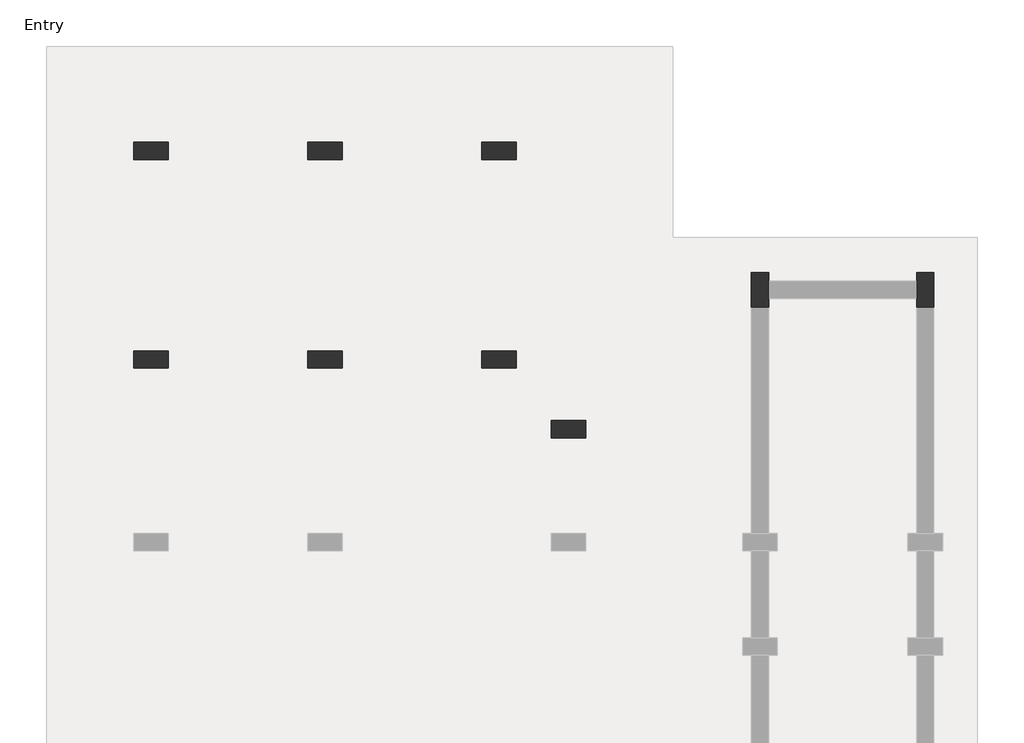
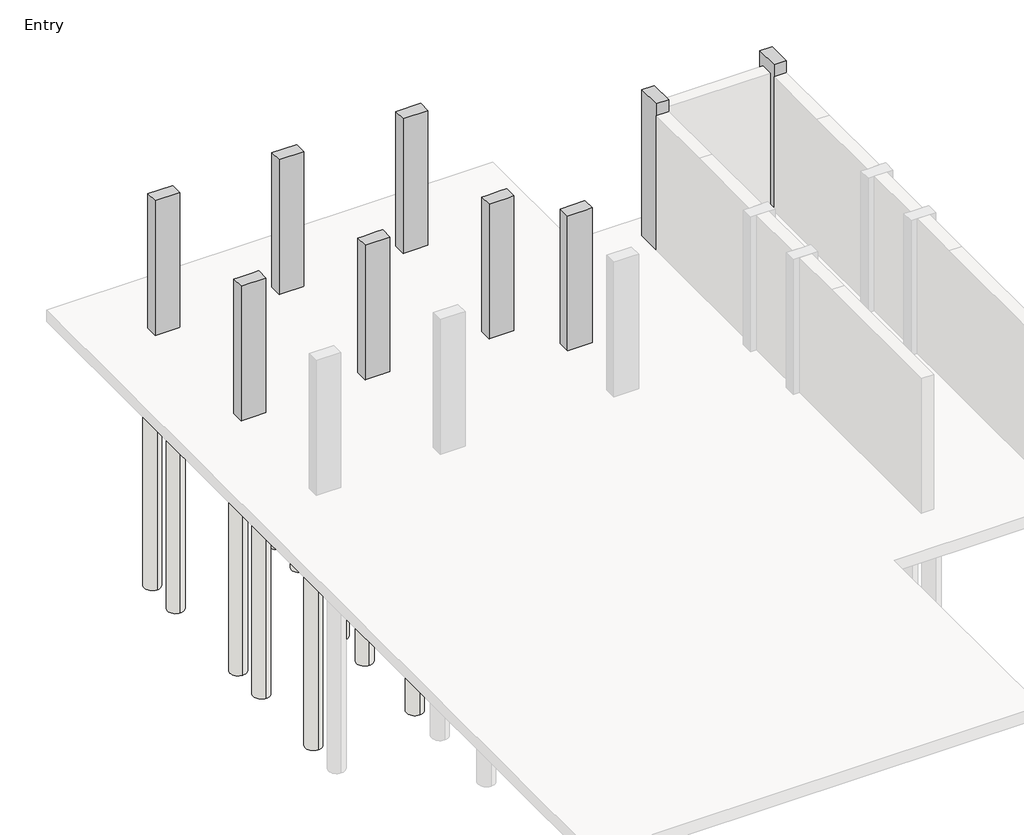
# One storey, part 3 of 3: 36 slabs, 9 columns.
"""IFC4 building model written with IfcOpenShell, lengths in millimetres."""

from ifc_helpers import new_model, si_unit, point, frame, frame_2d, origin, place, context, project, spatial, polyline, circle_curve, trimmed, segment, composite_curve, outline, extrude, faceted_brep, element, save

model = new_model("IFC4")

# Units and contexts
model_context = context("Model", 3, world=origin())
ifc_project = project(units=[si_unit("LENGTHUNIT", "METRE", prefix="MILLI")], contexts=[model_context])

# Site, building, storey
site = spatial("IfcSite", under=ifc_project)
building = spatial("IfcBuilding", under=site)
storey = spatial("IfcBuildingStorey", under=building, Name="Entry", Elevation=0.0)

# Columns
placement = place(None, origin())
element("IfcColumn", 1, ObjectType="Concrete-Rectangular-Column : 12 x 24", at=placement, inside=storey, context=model_context, shape_type="Brep", body=[
    faceted_brep([(-15677.5554735, 14646.9867088, 0.0), (-15067.9554735, 14646.9867088, 0.0), (-15067.9554735, 14342.1867088, 0.0), (-15677.5554735, 14342.1867088, 0.0), (-15677.5554735, 14646.9867088, 3505.2), (-15067.9554735, 14646.9867088, 3505.2), (-15067.9554735, 14646.9867088, 2895.6), (-15067.9554735, 14342.1867088, 3505.2), (-15067.9554735, 14342.1867088, 2895.6), (-15220.3554735, 14342.1867088, 3505.2), (-15525.1554735, 14342.1867088, 3505.2), (-15677.5554735, 14342.1867088, 3505.2)], [[[0, 1, 2, 3]], [[4, 5, 6, 1, 0]], [[5, 7, 8, 2, 1, 6]], [[7, 9, 10, 11, 3, 2, 8]], [[11, 4, 0, 3]], [[4, 11, 10, 9, 7, 5]]]),
])
element("IfcColumn", 2, ObjectType="Concrete-Rectangular-Column : 12 x 24", at=placement, inside=storey, context=model_context, shape_type="Brep", body=[
    faceted_brep([(-12629.5554735, 14646.9867088, 0.0), (-12019.9554735, 14646.9867088, 0.0), (-12019.9554735, 14342.1867088, 0.0), (-12629.5554735, 14342.1867088, 0.0), (-12629.5554735, 14646.9867088, 3505.2), (-12019.9554735, 14646.9867088, 3505.2), (-12019.9554735, 14646.9867088, 2895.6), (-12629.5554735, 14646.9867088, 2895.6), (-12019.9554735, 14342.1867088, 3505.2), (-12019.9554735, 14342.1867088, 2895.6), (-12172.3554735, 14342.1867088, 3505.2), (-12477.1554735, 14342.1867088, 3505.2), (-12629.5554735, 14342.1867088, 3505.2), (-12629.5554735, 14342.1867088, 2895.6)], [[[0, 1, 2, 3]], [[4, 5, 6, 1, 0, 7]], [[5, 8, 9, 2, 1, 6]], [[8, 10, 11, 12, 13, 3, 2, 9]], [[12, 4, 7, 0, 3, 13]], [[4, 12, 11, 10, 8, 5]]]),
])
element("IfcColumn", 3, ObjectType="Concrete-Rectangular-Column : 12 x 24", at=placement, inside=storey, context=model_context, shape_type="Brep", body=[
    faceted_brep([(-9581.5554735, 14646.9867088, 0.0), (-8971.9554735, 14646.9867088, 0.0), (-8971.9554735, 14342.1867088, 0.0), (-9581.5554735, 14342.1867088, 0.0), (-9581.5554735, 14646.9867088, 3505.2), (-8971.9554735, 14646.9867088, 3505.2), (-9581.5554735, 14646.9867088, 2895.6), (-8971.9554735, 14342.1867088, 3505.2), (-9124.3554735, 14342.1867088, 3505.2), (-9429.1554735, 14342.1867088, 3505.2), (-9581.5554735, 14342.1867088, 3505.2), (-9581.5554735, 14342.1867088, 2895.6)], [[[0, 1, 2, 3]], [[4, 5, 1, 0, 6]], [[5, 7, 2, 1]], [[7, 8, 9, 10, 11, 3, 2]], [[10, 4, 6, 0, 3, 11]], [[4, 10, 9, 8, 7, 5]]]),
])
element("IfcColumn", 4, ObjectType="Concrete-Rectangular-Column : 12 x 24", at=placement, inside=storey, context=model_context, shape_type="Brep", body=[
    faceted_brep([(-15677.5554735, 10989.3867088, 0.0), (-15067.9554735, 10989.3867088, 0.0), (-15067.9554735, 10684.5867088, 0.0), (-15677.5554735, 10684.5867088, 0.0), (-15677.5554735, 10989.3867088, 3505.2), (-15525.1554735, 10989.3867088, 3505.2), (-15220.3554735, 10989.3867088, 3505.2), (-15067.9554735, 10989.3867088, 3505.2), (-15067.9554735, 10989.3867088, 2895.6), (-15067.9554735, 10684.5867088, 3505.2), (-15067.9554735, 10684.5867088, 2895.6), (-15220.3554735, 10684.5867088, 3505.2), (-15525.1554735, 10684.5867088, 3505.2), (-15677.5554735, 10684.5867088, 3505.2)], [[[0, 1, 2, 3]], [[4, 5, 6, 7, 8, 1, 0]], [[7, 9, 10, 2, 1, 8]], [[9, 11, 12, 13, 3, 2, 10]], [[13, 4, 0, 3]], [[4, 13, 12, 11, 9, 7, 6, 5]]]),
])
element("IfcColumn", 5, ObjectType="Concrete-Rectangular-Column : 12 x 24", at=placement, inside=storey, context=model_context, shape_type="Brep", body=[
    faceted_brep([(-12629.5554735, 10989.3867088, 0.0), (-12019.9554735, 10989.3867088, 0.0), (-12019.9554735, 10684.5867088, 0.0), (-12629.5554735, 10684.5867088, 0.0), (-12629.5554735, 10989.3867088, 3505.2), (-12477.1554735, 10989.3867088, 3505.2), (-12172.3554735, 10989.3867088, 3505.2), (-12019.9554735, 10989.3867088, 3505.2), (-12019.9554735, 10989.3867088, 2895.6), (-12629.5554735, 10989.3867088, 2895.6), (-12019.9554735, 10684.5867088, 3505.2), (-12019.9554735, 10684.5867088, 2895.6), (-12172.3554735, 10684.5867088, 3505.2), (-12477.1554735, 10684.5867088, 3505.2), (-12629.5554735, 10684.5867088, 3505.2), (-12629.5554735, 10684.5867088, 2895.6)], [[[0, 1, 2, 3]], [[4, 5, 6, 7, 8, 1, 0, 9]], [[7, 10, 11, 2, 1, 8]], [[10, 12, 13, 14, 15, 3, 2, 11]], [[14, 4, 9, 0, 3, 15]], [[4, 14, 13, 12, 10, 7, 6, 5]]]),
])
element("IfcColumn", 6, ObjectType="Concrete-Rectangular-Column : 12 x 24", at=placement, inside=storey, context=model_context, shape_type="Brep", body=[
    faceted_brep([(-9581.5554735, 10989.3867088, 0.0), (-8971.9554735, 10989.3867088, 0.0), (-8971.9554735, 10684.5867088, 0.0), (-9581.5554735, 10684.5867088, 0.0), (-9581.5554735, 10989.3867088, 3505.2), (-9429.1554735, 10989.3867088, 3505.2), (-9124.3554735, 10989.3867088, 3505.2), (-8971.9554735, 10989.3867088, 3505.2), (-9581.5554735, 10989.3867088, 2895.6), (-8971.9554735, 10684.5867088, 3505.2), (-9124.3554735, 10684.5867088, 3505.2), (-9429.1554735, 10684.5867088, 3505.2), (-9581.5554735, 10684.5867088, 3505.2), (-9581.5554735, 10684.5867088, 2895.6)], [[[0, 1, 2, 3]], [[4, 5, 6, 7, 1, 0, 8]], [[7, 9, 2, 1]], [[9, 10, 11, 12, 13, 3, 2]], [[12, 4, 8, 0, 3, 13]], [[4, 12, 11, 10, 9, 7, 6, 5]]]),
])
element("IfcColumn", 7, ObjectType="Concrete-Rectangular-Column : 12 x 24", at=placement, inside=storey, context=model_context, shape_type="Brep", body=[
    faceted_brep([(-8362.3554735, 9770.1867088, 0.0), (-7752.7554735, 9770.1867088, 0.0), (-7752.7554735, 9465.3867088, 0.0), (-8362.3554735, 9465.3867088, 0.0), (-8362.3554735, 9770.1867088, 3505.2), (-7752.7554735, 9770.1867088, 3505.2), (-8362.3554735, 9770.1867088, 2895.6), (-7752.7554735, 9465.3867088, 3505.2), (-7905.1554735, 9465.3867088, 3505.2), (-8209.9554735, 9465.3867088, 3505.2), (-8362.3554735, 9465.3867088, 3505.2), (-8362.3554735, 9465.3867088, 2895.6)], [[[0, 1, 2, 3]], [[4, 5, 1, 0, 6]], [[5, 7, 2, 1]], [[7, 8, 9, 10, 11, 3, 2]], [[10, 4, 6, 0, 3, 11]], [[4, 10, 9, 8, 7, 5]]]),
])
element("IfcColumn", 8, ObjectType="Concrete-Rectangular-Column : 12 x 24", at=placement, inside=storey, context=model_context, shape_type="Brep", body=[
    faceted_brep([(-4857.1554735, 11751.3867088, 0.0), (-4857.1554735, 12360.9867088, 0.0), (-4552.3554735, 12360.9867088, 0.0), (-4552.3554735, 12208.5867088, 0.0), (-4552.3554735, 11903.7867088, 0.0), (-4552.3554735, 11751.3867088, 0.0), (-4857.1554735, 11751.3867088, 3810.0), (-4857.1554735, 12360.9867088, 3810.0), (-4857.1554735, 11751.3867088, 3505.2), (-4552.3554735, 12360.9867088, 3810.0), (-4552.3554735, 11751.3867088, 3810.0), (-4552.3554735, 11751.3867088, 3505.2)], [[[0, 1, 2, 3, 4, 5]], [[6, 7, 1, 0, 8]], [[7, 9, 2, 1]], [[9, 10, 11, 5, 4, 3, 2]], [[10, 6, 8, 0, 5, 11]], [[6, 10, 9, 7]]]),
])
element("IfcColumn", 9, ObjectType="Concrete-Rectangular-Column : 12 x 24", at=placement, inside=storey, context=model_context, shape_type="Brep", body=[
    faceted_brep([(-1961.5554735, 11751.3867088, 0.0), (-1961.5554735, 11903.7867088, 0.0), (-1961.5554735, 12208.5867088, 0.0), (-1961.5554735, 12360.9867088, 0.0), (-1656.7554735, 12360.9867088, 0.0), (-1656.7554735, 11751.3867088, 0.0), (-1961.5554735, 11751.3867088, 3810.0), (-1961.5554735, 12360.9867088, 3810.0), (-1961.5554735, 11751.3867088, 3505.2), (-1656.7554735, 12360.9867088, 3810.0), (-1656.7554735, 11751.3867088, 3810.0), (-1656.7554735, 11751.3867088, 3505.2)], [[[0, 1, 2, 3, 4, 5]], [[6, 7, 3, 2, 1, 0, 8]], [[7, 9, 4, 3]], [[9, 10, 11, 5, 4]], [[10, 6, 8, 0, 5, 11]], [[6, 10, 9, 7]]]),
])

# Slabs
element("IfcSlab", 10, ObjectType="Pile Cap-2 Pile : 31\"x61\"x35\"", at=placement, inside=storey, context=model_context, shape_type="SweptSolid", body=[
    extrude(outline(polyline([(-15779.1554735, 15396.2867088), (-14966.3554735, 15396.2867088), (-14966.3554735, 13592.8867088), (-15779.1554735, 13592.8867088), (-15779.1554735, 15396.2867088)])), frame((0.0, 0.0, -889.0), z_axis=(0.0, 0.0, 1.0), x_axis=(1.0, 0.0, 0.0)), (0.0, 0.0, 1.0), 584.2),
])
element("IfcSlab", 11, ObjectType="Pile Cap-2 Pile : 31\"x61\"x35\"", at=placement, inside=storey, context=model_context, shape_type="SweptSolid", body=[
    extrude(outline(polyline([(-15779.1554735, 11738.6867088), (-14966.3554735, 11738.6867088), (-14966.3554735, 9935.2867088), (-15779.1554735, 9935.2867088), (-15779.1554735, 11738.6867088)])), frame((0.0, 0.0, -889.0), z_axis=(0.0, 0.0, 1.0), x_axis=(1.0, 0.0, 0.0)), (0.0, 0.0, 1.0), 584.2),
])
element("IfcSlab", 12, ObjectType="Pile Cap-2 Pile : 31\"x61\"x35\"", at=placement, inside=storey, context=model_context, shape_type="SweptSolid", body=[
    extrude(outline(polyline([(-12731.1554735, 15396.2867088), (-11918.3554735, 15396.2867088), (-11918.3554735, 13592.8867088), (-12731.1554735, 13592.8867088), (-12731.1554735, 15396.2867088)])), frame((0.0, 0.0, -889.0), z_axis=(0.0, 0.0, 1.0), x_axis=(1.0, 0.0, 0.0)), (0.0, 0.0, 1.0), 584.2),
])
element("IfcSlab", 13, ObjectType="Pile Cap-2 Pile : 31\"x61\"x35\"", at=placement, inside=storey, context=model_context, shape_type="SweptSolid", body=[
    extrude(outline(polyline([(-9683.1554735, 15396.2867088), (-8870.3554735, 15396.2867088), (-8870.3554735, 13592.8867088), (-9683.1554735, 13592.8867088), (-9683.1554735, 15396.2867088)])), frame((0.0, 0.0, -889.0), z_axis=(0.0, 0.0, 1.0), x_axis=(1.0, 0.0, 0.0)), (0.0, 0.0, 1.0), 584.2),
])
element("IfcSlab", 14, ObjectType="Pile Cap-2 Pile : 31\"x61\"x35\"", at=placement, inside=storey, context=model_context, shape_type="Brep", body=[
    faceted_brep([(-9683.1554735, 11738.6867088, -889.0), (-8870.3554735, 11738.6867088, -889.0), (-8870.3554735, 10024.1867088, -889.0), (-8870.3554735, 9935.2867088, -889.0), (-8959.2554735, 9935.2867088, -889.0), (-9683.1554735, 9935.2867088, -889.0), (-9683.1554735, 9935.2867088, -304.8), (-9683.1554735, 11738.6867088, -304.8), (-8870.3554735, 9935.2867088, -304.8), (-8959.2554735, 9935.2867088, -304.8), (-8870.3554735, 11738.6867088, -304.8), (-8870.3554735, 10024.1867088, -304.8)], [[[0, 1, 2, 3, 4, 5]], [[0, 5, 6, 7]], [[5, 4, 3, 8, 9, 6]], [[3, 2, 1, 10, 11, 8]], [[1, 0, 7, 10]], [[7, 6, 9, 8, 11, 10]]]),
])
element("IfcSlab", 15, ObjectType="Pile Cap-2 Pile : 31\"x61\"x35\"", at=placement, inside=storey, context=model_context, shape_type="SweptSolid", body=[
    extrude(outline(polyline([(-7155.8554735, 10024.1867088), (-7155.8554735, 9211.3867088), (-8959.2554735, 9211.3867088), (-8959.2554735, 9935.2867088), (-8870.3554735, 9935.2867088), (-8870.3554735, 10024.1867088), (-7155.8554735, 10024.1867088)])), frame((0.0, 0.0, -889.0), z_axis=(0.0, 0.0, 1.0), x_axis=(1.0, 0.0, 0.0)), (0.0, 0.0, 1.0), 584.2),
])
element("IfcSlab", 16, ObjectType="Pile Cap-2 Pile : 31\"x61\"x35\"", at=placement, inside=storey, context=model_context, shape_type="SweptSolid", body=[
    extrude(outline(polyline([(-5606.4554735, 11649.7867088), (-5606.4554735, 12462.5867088), (-3803.0554735, 12462.5867088), (-3803.0554735, 11649.7867088), (-5606.4554735, 11649.7867088)])), frame((0.0, 0.0, -889.0), z_axis=(0.0, 0.0, 1.0), x_axis=(1.0, 0.0, 0.0)), (0.0, 0.0, 1.0), 584.2),
])
element("IfcSlab", 17, ObjectType="Pile Cap-2 Pile : 31\"x61\"x35\"", at=placement, inside=storey, context=model_context, shape_type="SweptSolid", body=[
    extrude(outline(polyline([(-2710.8554735, 11649.7867088), (-2710.8554735, 12462.5867088), (-907.4554735, 12462.5867088), (-907.4554735, 11649.7867088), (-2710.8554735, 11649.7867088)])), frame((0.0, 0.0, -889.0), z_axis=(0.0, 0.0, 1.0), x_axis=(1.0, 0.0, 0.0)), (0.0, 0.0, 1.0), 584.2),
])
element("IfcSlab", 18, ObjectType="Pile Cap-4 Pile : 72\"x72\"x35\"", at=placement, inside=storey, context=model_context, shape_type="SweptSolid", body=[
    extrude(outline(polyline([(-13239.1554735, 11751.3867088), (-11410.3554735, 11751.3867088), (-11410.3554735, 9922.5867088), (-13239.1554735, 9922.5867088), (-13239.1554735, 11751.3867088)])), frame((0.0, 0.0, -889.0), z_axis=(0.0, 0.0, 1.0), x_axis=(1.0, 0.0, 0.0)), (0.0, 0.0, 1.0), 584.2),
])
element("IfcSlab", 19, ObjectType="Pile-Steel Pipe : 16\" Diameter", at=placement, inside=storey, context=model_context, shape_type="SweptSolid", body=[
    extrude(outline(composite_curve([segment(trimmed(circle_curve(frame_2d((-12858.1554735, 10303.5867088)), 203.2), [point((-12858.1554735, 10100.3867088))], [point((-12858.1554735, 10506.7867088))], False, "CARTESIAN"), True, "CONTINUOUS"), segment(trimmed(circle_curve(frame_2d((-12858.1554735, 10303.5867088)), 203.2), [point((-12858.1554735, 10506.7867088))], [point((-12858.1554735, 10100.3867088))], False, "CARTESIAN"), True, "CONTINUOUS")], self_intersect=False)), frame((0.0, 0.0, -6985.0), z_axis=(0.0, 0.0, 1.0), x_axis=(1.0, 0.0, 0.0)), (0.0, 0.0, 1.0), 6096.0),
])
element("IfcSlab", 20, ObjectType="Pile-Steel Pipe : 16\" Diameter", at=placement, inside=storey, context=model_context, shape_type="SweptSolid", body=[
    extrude(outline(composite_curve([segment(trimmed(circle_curve(frame_2d((-11791.3554735, 10303.5867088)), 203.2), [point((-11791.3554735, 10100.3867088))], [point((-11791.3554735, 10506.7867088))], False, "CARTESIAN"), True, "CONTINUOUS"), segment(trimmed(circle_curve(frame_2d((-11791.3554735, 10303.5867088)), 203.2), [point((-11791.3554735, 10506.7867088))], [point((-11791.3554735, 10100.3867088))], False, "CARTESIAN"), True, "CONTINUOUS")], self_intersect=False)), frame((0.0, 0.0, -6985.0), z_axis=(0.0, 0.0, 1.0), x_axis=(1.0, 0.0, 0.0)), (0.0, 0.0, 1.0), 6096.0),
])
element("IfcSlab", 21, ObjectType="Pile-Steel Pipe : 16\" Diameter", at=placement, inside=storey, context=model_context, shape_type="SweptSolid", body=[
    extrude(outline(composite_curve([segment(trimmed(circle_curve(frame_2d((-11791.3554735, 11370.3867088)), 203.2), [point((-11791.3554735, 11167.1867088))], [point((-11791.3554735, 11573.5867088))], False, "CARTESIAN"), True, "CONTINUOUS"), segment(trimmed(circle_curve(frame_2d((-11791.3554735, 11370.3867088)), 203.2), [point((-11791.3554735, 11573.5867088))], [point((-11791.3554735, 11167.1867088))], False, "CARTESIAN"), True, "CONTINUOUS")], self_intersect=False)), frame((0.0, 0.0, -6985.0), z_axis=(0.0, 0.0, 1.0), x_axis=(1.0, 0.0, 0.0)), (0.0, 0.0, 1.0), 6096.0),
])
element("IfcSlab", 22, ObjectType="Pile-Steel Pipe : 16\" Diameter", at=placement, inside=storey, context=model_context, shape_type="SweptSolid", body=[
    extrude(outline(composite_curve([segment(trimmed(circle_curve(frame_2d((-12858.1554735, 11370.3867088)), 203.2), [point((-12858.1554735, 11167.1867088))], [point((-12858.1554735, 11573.5867088))], False, "CARTESIAN"), True, "CONTINUOUS"), segment(trimmed(circle_curve(frame_2d((-12858.1554735, 11370.3867088)), 203.2), [point((-12858.1554735, 11573.5867088))], [point((-12858.1554735, 11167.1867088))], False, "CARTESIAN"), True, "CONTINUOUS")], self_intersect=False)), frame((0.0, 0.0, -6985.0), z_axis=(0.0, 0.0, 1.0), x_axis=(1.0, 0.0, 0.0)), (0.0, 0.0, 1.0), 6096.0),
])
element("IfcSlab", 23, ObjectType="Pile-Steel Pipe : 16\" Diameter", at=placement, inside=storey, context=model_context, shape_type="SweptSolid", body=[
    extrude(outline(composite_curve([segment(trimmed(circle_curve(frame_2d((-11791.3554735, 8169.9867088)), 203.2), [point((-11791.3554735, 7966.7867088))], [point((-11791.3554735, 8373.1867088))], False, "CARTESIAN"), True, "CONTINUOUS"), segment(trimmed(circle_curve(frame_2d((-11791.3554735, 8169.9867088)), 203.2), [point((-11791.3554735, 8373.1867088))], [point((-11791.3554735, 7966.7867088))], False, "CARTESIAN"), True, "CONTINUOUS")], self_intersect=False)), frame((0.0, 0.0, -6985.0), z_axis=(0.0, 0.0, 1.0), x_axis=(1.0, 0.0, 0.0)), (0.0, 0.0, 1.0), 6096.0),
])
element("IfcSlab", 24, ObjectType="Pile-Steel Pipe : 16\" Diameter", at=placement, inside=storey, context=model_context, shape_type="SweptSolid", body=[
    extrude(outline(composite_curve([segment(trimmed(circle_curve(frame_2d((-12858.1554735, 8169.9867088)), 203.2), [point((-12858.1554735, 7966.7867088))], [point((-12858.1554735, 8373.1867088))], False, "CARTESIAN"), True, "CONTINUOUS"), segment(trimmed(circle_curve(frame_2d((-12858.1554735, 8169.9867088)), 203.2), [point((-12858.1554735, 8373.1867088))], [point((-12858.1554735, 7966.7867088))], False, "CARTESIAN"), True, "CONTINUOUS")], self_intersect=False)), frame((0.0, 0.0, -6985.0), z_axis=(0.0, 0.0, 1.0), x_axis=(1.0, 0.0, 0.0)), (0.0, 0.0, 1.0), 6096.0),
])
element("IfcSlab", 25, ObjectType="Pile-Steel Pipe : 16\" Diameter", at=placement, inside=storey, context=model_context, shape_type="SweptSolid", body=[
    extrude(outline(composite_curve([segment(trimmed(circle_curve(frame_2d((-15372.7554735, 14989.8867088)), 203.2), [point((-15372.7554735, 14786.6867088))], [point((-15372.7554735, 15193.0867088))], False, "CARTESIAN"), True, "CONTINUOUS"), segment(trimmed(circle_curve(frame_2d((-15372.7554735, 14989.8867088)), 203.2), [point((-15372.7554735, 15193.0867088))], [point((-15372.7554735, 14786.6867088))], False, "CARTESIAN"), True, "CONTINUOUS")], self_intersect=False)), frame((0.0, 0.0, -6985.0), z_axis=(0.0, 0.0, 1.0), x_axis=(1.0, 0.0, 0.0)), (0.0, 0.0, 1.0), 6096.0),
])
element("IfcSlab", 26, ObjectType="Pile-Steel Pipe : 16\" Diameter", at=placement, inside=storey, context=model_context, shape_type="SweptSolid", body=[
    extrude(outline(composite_curve([segment(trimmed(circle_curve(frame_2d((-15372.7554735, 13999.2867088)), 203.2), [point((-15372.7554735, 13796.0867088))], [point((-15372.7554735, 14202.4867088))], False, "CARTESIAN"), True, "CONTINUOUS"), segment(trimmed(circle_curve(frame_2d((-15372.7554735, 13999.2867088)), 203.2), [point((-15372.7554735, 14202.4867088))], [point((-15372.7554735, 13796.0867088))], False, "CARTESIAN"), True, "CONTINUOUS")], self_intersect=False)), frame((0.0, 0.0, -6985.0), z_axis=(0.0, 0.0, 1.0), x_axis=(1.0, 0.0, 0.0)), (0.0, 0.0, 1.0), 6096.0),
])
element("IfcSlab", 27, ObjectType="Pile-Steel Pipe : 16\" Diameter", at=placement, inside=storey, context=model_context, shape_type="SweptSolid", body=[
    extrude(outline(composite_curve([segment(trimmed(circle_curve(frame_2d((-15372.7554735, 11332.2867088)), 203.2), [point((-15372.7554735, 11129.0867088))], [point((-15372.7554735, 11535.4867088))], False, "CARTESIAN"), True, "CONTINUOUS"), segment(trimmed(circle_curve(frame_2d((-15372.7554735, 11332.2867088)), 203.2), [point((-15372.7554735, 11535.4867088))], [point((-15372.7554735, 11129.0867088))], False, "CARTESIAN"), True, "CONTINUOUS")], self_intersect=False)), frame((0.0, 0.0, -6985.0), z_axis=(0.0, 0.0, 1.0), x_axis=(1.0, 0.0, 0.0)), (0.0, 0.0, 1.0), 6096.0),
])
element("IfcSlab", 28, ObjectType="Pile-Steel Pipe : 16\" Diameter", at=placement, inside=storey, context=model_context, shape_type="SweptSolid", body=[
    extrude(outline(composite_curve([segment(trimmed(circle_curve(frame_2d((-15372.7554735, 10341.6867088)), 203.2), [point((-15372.7554735, 10138.4867088))], [point((-15372.7554735, 10544.8867088))], False, "CARTESIAN"), True, "CONTINUOUS"), segment(trimmed(circle_curve(frame_2d((-15372.7554735, 10341.6867088)), 203.2), [point((-15372.7554735, 10544.8867088))], [point((-15372.7554735, 10138.4867088))], False, "CARTESIAN"), True, "CONTINUOUS")], self_intersect=False)), frame((0.0, 0.0, -6985.0), z_axis=(0.0, 0.0, 1.0), x_axis=(1.0, 0.0, 0.0)), (0.0, 0.0, 1.0), 6096.0),
])
element("IfcSlab", 29, ObjectType="Pile-Steel Pipe : 16\" Diameter", at=placement, inside=storey, context=model_context, shape_type="SweptSolid", body=[
    extrude(outline(composite_curve([segment(trimmed(circle_curve(frame_2d((-15372.7554735, 8131.8867088)), 203.2), [point((-15372.7554735, 7928.6867088))], [point((-15372.7554735, 8335.0867088))], False, "CARTESIAN"), True, "CONTINUOUS"), segment(trimmed(circle_curve(frame_2d((-15372.7554735, 8131.8867088)), 203.2), [point((-15372.7554735, 8335.0867088))], [point((-15372.7554735, 7928.6867088))], False, "CARTESIAN"), True, "CONTINUOUS")], self_intersect=False)), frame((0.0, 0.0, -6985.0), z_axis=(0.0, 0.0, 1.0), x_axis=(1.0, 0.0, 0.0)), (0.0, 0.0, 1.0), 6096.0),
])
element("IfcSlab", 30, ObjectType="Pile-Steel Pipe : 16\" Diameter", at=placement, inside=storey, context=model_context, shape_type="SweptSolid", body=[
    extrude(outline(composite_curve([segment(trimmed(circle_curve(frame_2d((-8057.5554735, 8131.8867088)), 203.2), [point((-8057.5554735, 7928.6867088))], [point((-8057.5554735, 8335.0867088))], False, "CARTESIAN"), True, "CONTINUOUS"), segment(trimmed(circle_curve(frame_2d((-8057.5554735, 8131.8867088)), 203.2), [point((-8057.5554735, 8335.0867088))], [point((-8057.5554735, 7928.6867088))], False, "CARTESIAN"), True, "CONTINUOUS")], self_intersect=False)), frame((0.0, 0.0, -6985.0), z_axis=(0.0, 0.0, 1.0), x_axis=(1.0, 0.0, 0.0)), (0.0, 0.0, 1.0), 6096.0),
])
element("IfcSlab", 31, ObjectType="Pile-Steel Pipe : 16\" Diameter", at=placement, inside=storey, context=model_context, shape_type="SweptSolid", body=[
    extrude(outline(composite_curve([segment(trimmed(circle_curve(frame_2d((-12324.7554735, 14989.8867088)), 203.2), [point((-12324.7554735, 14786.6867088))], [point((-12324.7554735, 15193.0867088))], False, "CARTESIAN"), True, "CONTINUOUS"), segment(trimmed(circle_curve(frame_2d((-12324.7554735, 14989.8867088)), 203.2), [point((-12324.7554735, 15193.0867088))], [point((-12324.7554735, 14786.6867088))], False, "CARTESIAN"), True, "CONTINUOUS")], self_intersect=False)), frame((0.0, 0.0, -6985.0), z_axis=(0.0, 0.0, 1.0), x_axis=(1.0, 0.0, 0.0)), (0.0, 0.0, 1.0), 6096.0),
])
element("IfcSlab", 32, ObjectType="Pile-Steel Pipe : 16\" Diameter", at=placement, inside=storey, context=model_context, shape_type="SweptSolid", body=[
    extrude(outline(composite_curve([segment(trimmed(circle_curve(frame_2d((-12324.7554735, 13999.2867088)), 203.2), [point((-12324.7554735, 13796.0867088))], [point((-12324.7554735, 14202.4867088))], False, "CARTESIAN"), True, "CONTINUOUS"), segment(trimmed(circle_curve(frame_2d((-12324.7554735, 13999.2867088)), 203.2), [point((-12324.7554735, 14202.4867088))], [point((-12324.7554735, 13796.0867088))], False, "CARTESIAN"), True, "CONTINUOUS")], self_intersect=False)), frame((0.0, 0.0, -6985.0), z_axis=(0.0, 0.0, 1.0), x_axis=(1.0, 0.0, 0.0)), (0.0, 0.0, 1.0), 6096.0),
])
element("IfcSlab", 33, ObjectType="Pile-Steel Pipe : 16\" Diameter", at=placement, inside=storey, context=model_context, shape_type="SweptSolid", body=[
    extrude(outline(composite_curve([segment(trimmed(circle_curve(frame_2d((-9276.7554735, 14989.8867088)), 203.2), [point((-9276.7554735, 14786.6867088))], [point((-9276.7554735, 15193.0867088))], False, "CARTESIAN"), True, "CONTINUOUS"), segment(trimmed(circle_curve(frame_2d((-9276.7554735, 14989.8867088)), 203.2), [point((-9276.7554735, 15193.0867088))], [point((-9276.7554735, 14786.6867088))], False, "CARTESIAN"), True, "CONTINUOUS")], self_intersect=False)), frame((0.0, 0.0, -6985.0), z_axis=(0.0, 0.0, 1.0), x_axis=(1.0, 0.0, 0.0)), (0.0, 0.0, 1.0), 6096.0),
])
element("IfcSlab", 34, ObjectType="Pile-Steel Pipe : 16\" Diameter", at=placement, inside=storey, context=model_context, shape_type="SweptSolid", body=[
    extrude(outline(composite_curve([segment(trimmed(circle_curve(frame_2d((-9276.7554735, 13999.2867088)), 203.2), [point((-9276.7554735, 13796.0867088))], [point((-9276.7554735, 14202.4867088))], False, "CARTESIAN"), True, "CONTINUOUS"), segment(trimmed(circle_curve(frame_2d((-9276.7554735, 13999.2867088)), 203.2), [point((-9276.7554735, 14202.4867088))], [point((-9276.7554735, 13796.0867088))], False, "CARTESIAN"), True, "CONTINUOUS")], self_intersect=False)), frame((0.0, 0.0, -6985.0), z_axis=(0.0, 0.0, 1.0), x_axis=(1.0, 0.0, 0.0)), (0.0, 0.0, 1.0), 6096.0),
])
element("IfcSlab", 35, ObjectType="Pile-Steel Pipe : 16\" Diameter", at=placement, inside=storey, context=model_context, shape_type="SweptSolid", body=[
    extrude(outline(composite_curve([segment(trimmed(circle_curve(frame_2d((-9276.7554735, 11332.2867088)), 203.2), [point((-9276.7554735, 11129.0867088))], [point((-9276.7554735, 11535.4867088))], False, "CARTESIAN"), True, "CONTINUOUS"), segment(trimmed(circle_curve(frame_2d((-9276.7554735, 11332.2867088)), 203.2), [point((-9276.7554735, 11535.4867088))], [point((-9276.7554735, 11129.0867088))], False, "CARTESIAN"), True, "CONTINUOUS")], self_intersect=False)), frame((0.0, 0.0, -6985.0), z_axis=(0.0, 0.0, 1.0), x_axis=(1.0, 0.0, 0.0)), (0.0, 0.0, 1.0), 6096.0),
])
element("IfcSlab", 36, ObjectType="Pile-Steel Pipe : 16\" Diameter", at=placement, inside=storey, context=model_context, shape_type="SweptSolid", body=[
    extrude(outline(composite_curve([segment(trimmed(circle_curve(frame_2d((-9276.7554735, 10341.6867088)), 203.2), [point((-9276.7554735, 10138.4867088))], [point((-9276.7554735, 10544.8867088))], False, "CARTESIAN"), True, "CONTINUOUS"), segment(trimmed(circle_curve(frame_2d((-9276.7554735, 10341.6867088)), 203.2), [point((-9276.7554735, 10544.8867088))], [point((-9276.7554735, 10138.4867088))], False, "CARTESIAN"), True, "CONTINUOUS")], self_intersect=False)), frame((0.0, 0.0, -6985.0), z_axis=(0.0, 0.0, 1.0), x_axis=(1.0, 0.0, 0.0)), (0.0, 0.0, 1.0), 6096.0),
])
element("IfcSlab", 37, ObjectType="Pile-Steel Pipe : 16\" Diameter", at=placement, inside=storey, context=model_context, shape_type="SweptSolid", body=[
    extrude(outline(composite_curve([segment(trimmed(circle_curve(frame_2d((-7562.2554735, 9617.7867088)), 203.2), [point((-7765.4554735, 9617.7867088))], [point((-7359.0554735, 9617.7867088))], False, "CARTESIAN"), True, "CONTINUOUS"), segment(trimmed(circle_curve(frame_2d((-7562.2554735, 9617.7867088)), 203.2), [point((-7359.0554735, 9617.7867088))], [point((-7765.4554735, 9617.7867088))], False, "CARTESIAN"), True, "CONTINUOUS")], self_intersect=False)), frame((0.0, 0.0, -6985.0), z_axis=(0.0, 0.0, 1.0), x_axis=(1.0, 0.0, 0.0)), (0.0, 0.0, 1.0), 6096.0),
])
element("IfcSlab", 38, ObjectType="Pile-Steel Pipe : 16\" Diameter", at=placement, inside=storey, context=model_context, shape_type="SweptSolid", body=[
    extrude(outline(composite_curve([segment(trimmed(circle_curve(frame_2d((-8552.8554735, 9617.7867088)), 203.2), [point((-8756.0554735, 9617.7867088))], [point((-8349.6554735, 9617.7867088))], False, "CARTESIAN"), True, "CONTINUOUS"), segment(trimmed(circle_curve(frame_2d((-8552.8554735, 9617.7867088)), 203.2), [point((-8349.6554735, 9617.7867088))], [point((-8756.0554735, 9617.7867088))], False, "CARTESIAN"), True, "CONTINUOUS")], self_intersect=False)), frame((0.0, 0.0, -6985.0), z_axis=(0.0, 0.0, 1.0), x_axis=(1.0, 0.0, 0.0)), (0.0, 0.0, 1.0), 6096.0),
])
element("IfcSlab", 39, ObjectType="Pile-Steel Pipe : 16\" Diameter", at=placement, inside=storey, context=model_context, shape_type="SweptSolid", body=[
    extrude(outline(composite_curve([segment(trimmed(circle_curve(frame_2d((-5200.0554735, 12056.1867088)), 203.2), [point((-4996.8554735, 12056.1867088))], [point((-5403.2554735, 12056.1867088))], False, "CARTESIAN"), True, "CONTINUOUS"), segment(trimmed(circle_curve(frame_2d((-5200.0554735, 12056.1867088)), 203.2), [point((-5403.2554735, 12056.1867088))], [point((-4996.8554735, 12056.1867088))], False, "CARTESIAN"), True, "CONTINUOUS")], self_intersect=False)), frame((0.0, 0.0, -6985.0), z_axis=(0.0, 0.0, 1.0), x_axis=(1.0, 0.0, 0.0)), (0.0, 0.0, 1.0), 6096.0),
])
element("IfcSlab", 40, ObjectType="Pile-Steel Pipe : 16\" Diameter", at=placement, inside=storey, context=model_context, shape_type="SweptSolid", body=[
    extrude(outline(composite_curve([segment(trimmed(circle_curve(frame_2d((-4209.4554735, 12056.1867088)), 203.2), [point((-4006.2554735, 12056.1867088))], [point((-4412.6554735, 12056.1867088))], False, "CARTESIAN"), True, "CONTINUOUS"), segment(trimmed(circle_curve(frame_2d((-4209.4554735, 12056.1867088)), 203.2), [point((-4412.6554735, 12056.1867088))], [point((-4006.2554735, 12056.1867088))], False, "CARTESIAN"), True, "CONTINUOUS")], self_intersect=False)), frame((0.0, 0.0, -6985.0), z_axis=(0.0, 0.0, 1.0), x_axis=(1.0, 0.0, 0.0)), (0.0, 0.0, 1.0), 6096.0),
])
element("IfcSlab", 41, ObjectType="Pile-Steel Pipe : 16\" Diameter", at=placement, inside=storey, context=model_context, shape_type="SweptSolid", body=[
    extrude(outline(composite_curve([segment(trimmed(circle_curve(frame_2d((-2304.4554735, 12056.1867088)), 203.2), [point((-2101.2554735, 12056.1867088))], [point((-2507.6554735, 12056.1867088))], False, "CARTESIAN"), True, "CONTINUOUS"), segment(trimmed(circle_curve(frame_2d((-2304.4554735, 12056.1867088)), 203.2), [point((-2507.6554735, 12056.1867088))], [point((-2101.2554735, 12056.1867088))], False, "CARTESIAN"), True, "CONTINUOUS")], self_intersect=False)), frame((0.0, 0.0, -6985.0), z_axis=(0.0, 0.0, 1.0), x_axis=(1.0, 0.0, 0.0)), (0.0, 0.0, 1.0), 6096.0),
])
element("IfcSlab", 42, ObjectType="Pile-Steel Pipe : 16\" Diameter", at=placement, inside=storey, context=model_context, shape_type="SweptSolid", body=[
    extrude(outline(composite_curve([segment(trimmed(circle_curve(frame_2d((-1313.8554735, 12056.1867088)), 203.2), [point((-1110.6554735, 12056.1867088))], [point((-1517.0554735, 12056.1867088))], False, "CARTESIAN"), True, "CONTINUOUS"), segment(trimmed(circle_curve(frame_2d((-1313.8554735, 12056.1867088)), 203.2), [point((-1517.0554735, 12056.1867088))], [point((-1110.6554735, 12056.1867088))], False, "CARTESIAN"), True, "CONTINUOUS")], self_intersect=False)), frame((0.0, 0.0, -6985.0), z_axis=(0.0, 0.0, 1.0), x_axis=(1.0, 0.0, 0.0)), (0.0, 0.0, 1.0), 6096.0),
])
element("IfcSlab", 43, ObjectType="Pile-Steel Pipe : 16\" Diameter", at=placement, inside=storey, context=model_context, shape_type="SweptSolid", body=[
    extrude(outline(composite_curve([segment(trimmed(circle_curve(frame_2d((-4704.7554735, 8131.8867088)), 203.2), [point((-4704.7554735, 7928.6867088))], [point((-4704.7554735, 8335.0867088))], False, "CARTESIAN"), True, "CONTINUOUS"), segment(trimmed(circle_curve(frame_2d((-4704.7554735, 8131.8867088)), 203.2), [point((-4704.7554735, 8335.0867088))], [point((-4704.7554735, 7928.6867088))], False, "CARTESIAN"), True, "CONTINUOUS")], self_intersect=False)), frame((0.0, 0.0, -6985.0), z_axis=(0.0, 0.0, 1.0), x_axis=(1.0, 0.0, 0.0)), (0.0, 0.0, 1.0), 6096.0),
])
element("IfcSlab", 44, ObjectType="Pile-Steel Pipe : 16\" Diameter", at=placement, inside=storey, context=model_context, shape_type="SweptSolid", body=[
    extrude(outline(composite_curve([segment(trimmed(circle_curve(frame_2d((-1809.1554735, 8131.8867088)), 203.2), [point((-1809.1554735, 7928.6867088))], [point((-1809.1554735, 8335.0867088))], False, "CARTESIAN"), True, "CONTINUOUS"), segment(trimmed(circle_curve(frame_2d((-1809.1554735, 8131.8867088)), 203.2), [point((-1809.1554735, 8335.0867088))], [point((-1809.1554735, 7928.6867088))], False, "CARTESIAN"), True, "CONTINUOUS")], self_intersect=False)), frame((0.0, 0.0, -6985.0), z_axis=(0.0, 0.0, 1.0), x_axis=(1.0, 0.0, 0.0)), (0.0, 0.0, 1.0), 6096.0),
])
element("IfcSlab", 45, ObjectType="Pile-Steel Pipe : 16\" Diameter", at=placement, inside=storey, context=model_context, shape_type="SweptSolid", body=[
    extrude(outline(composite_curve([segment(trimmed(circle_curve(frame_2d((-1809.1554735, 7141.2867088)), 203.2), [point((-1809.1554735, 6938.0867088))], [point((-1809.1554735, 7344.4867088))], False, "CARTESIAN"), True, "CONTINUOUS"), segment(trimmed(circle_curve(frame_2d((-1809.1554735, 7141.2867088)), 203.2), [point((-1809.1554735, 7344.4867088))], [point((-1809.1554735, 6938.0867088))], False, "CARTESIAN"), True, "CONTINUOUS")], self_intersect=False)), frame((0.0, 0.0, -6985.0), z_axis=(0.0, 0.0, 1.0), x_axis=(1.0, 0.0, 0.0)), (0.0, 0.0, 1.0), 6096.0),
])

save(model, "model.ifc")
